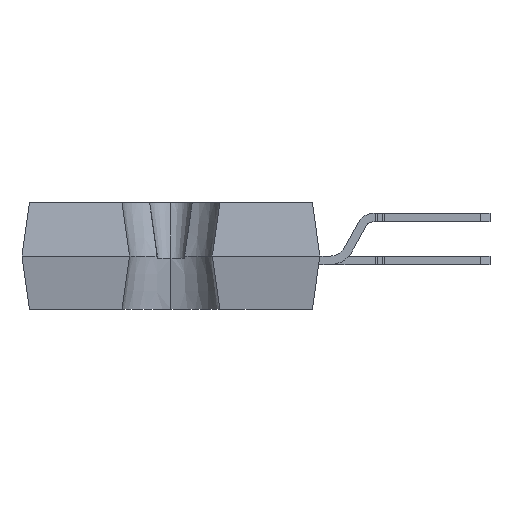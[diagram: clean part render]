
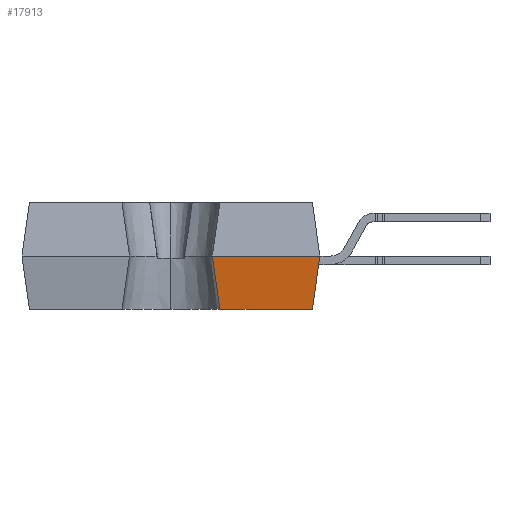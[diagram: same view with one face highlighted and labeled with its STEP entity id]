
A CAD part, left-side view. The second image highlights one B-rep face of the part: STEP entity #17913.
In plain terms, the highlighted planar face has unit normal (-0.99, 0, -0.139).
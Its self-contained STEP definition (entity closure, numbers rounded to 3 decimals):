
#374 = VERTEX_POINT ( 'NONE', #6268 ) ;
#387 = CARTESIAN_POINT ( 'NONE',  ( -18., -1.95, 0. ) ) ;
#430 = LINE ( 'NONE', #15714, #1630 ) ;
#926 = DIRECTION ( 'NONE',  ( -0.99, 0., -0.139 ) ) ;
#1378 = ORIENTED_EDGE ( 'NONE', *, *, #8024, .F. ) ;
#1480 = VECTOR ( 'NONE', #14697, 1000. ) ;
#1630 = VECTOR ( 'NONE', #8093, 1000. ) ;
#1879 = EDGE_CURVE ( 'NONE', #374, #7751, #13488, .T. ) ;
#2562 = VERTEX_POINT ( 'NONE', #9289 ) ;
#3088 = EDGE_CURVE ( 'NONE', #7751, #2562, #3110, .T. ) ;
#3110 = LINE ( 'NONE', #10958, #7282 ) ;
#3955 = DIRECTION ( 'NONE',  ( -0.139, 0., 0.99 ) ) ;
#4177 = VECTOR ( 'NONE', #6593, 1000. ) ;
#4350 = CARTESIAN_POINT ( 'NONE',  ( -17.649, 0., -2.5 ) ) ;
#4718 = AXIS2_PLACEMENT_3D ( 'NONE', #14794, #926, #3955 ) ;
#6268 = CARTESIAN_POINT ( 'NONE',  ( -17.649, -2.301, -2.5 ) ) ;
#6283 = ORIENTED_EDGE ( 'NONE', *, *, #6853, .F. ) ;
#6593 = DIRECTION ( 'NONE',  ( 0., -1., 0. ) ) ;
#6853 = EDGE_CURVE ( 'NONE', #16688, #2562, #17345, .T. ) ;
#7282 = VECTOR ( 'NONE', #10861, 1000. ) ;
#7751 = VERTEX_POINT ( 'NONE', #13220 ) ;
#8024 = EDGE_CURVE ( 'NONE', #374, #16688, #430, .T. ) ;
#8093 = DIRECTION ( 'NONE',  ( -0.138, 0.138, 0.981 ) ) ;
#9289 = CARTESIAN_POINT ( 'NONE',  ( -18., -7., 0. ) ) ;
#10054 = ORIENTED_EDGE ( 'NONE', *, *, #1879, .T. ) ;
#10861 = DIRECTION ( 'NONE',  ( -0.138, -0.138, 0.981 ) ) ;
#10958 = CARTESIAN_POINT ( 'NONE',  ( -18., -7., 0. ) ) ;
#11491 = FACE_OUTER_BOUND ( 'NONE', #11506, .T. ) ;
#11506 = EDGE_LOOP ( 'NONE', ( #6283, #1378, #10054, #19066 ) ) ;
#13220 = CARTESIAN_POINT ( 'NONE',  ( -17.649, -6.649, -2.5 ) ) ;
#13488 = LINE ( 'NONE', #4350, #1480 ) ;
#13932 = CARTESIAN_POINT ( 'NONE',  ( -18., -7., 0. ) ) ;
#14697 = DIRECTION ( 'NONE',  ( 0., -1., 0. ) ) ;
#14794 = CARTESIAN_POINT ( 'NONE',  ( -18., -7., 0. ) ) ;
#15714 = CARTESIAN_POINT ( 'NONE',  ( -17.943, -2.007, -0.406 ) ) ;
#16101 = PLANE ( 'NONE',  #4718 ) ;
#16688 = VERTEX_POINT ( 'NONE', #387 ) ;
#17345 = LINE ( 'NONE', #13932, #4177 ) ;
#17913 = ADVANCED_FACE ( 'NONE', ( #11491 ), #16101, .T. ) ;
#19066 = ORIENTED_EDGE ( 'NONE', *, *, #3088, .T. ) ;
